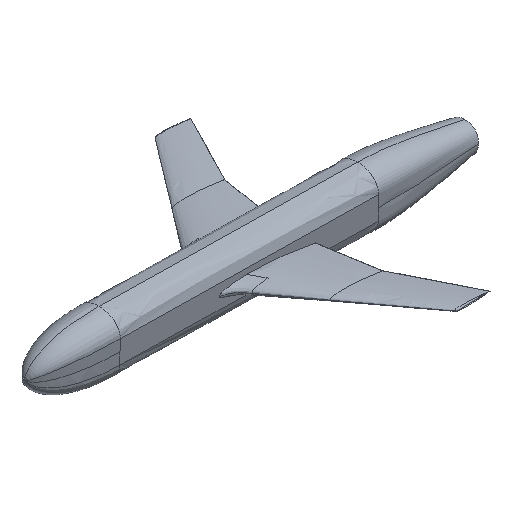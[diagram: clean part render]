
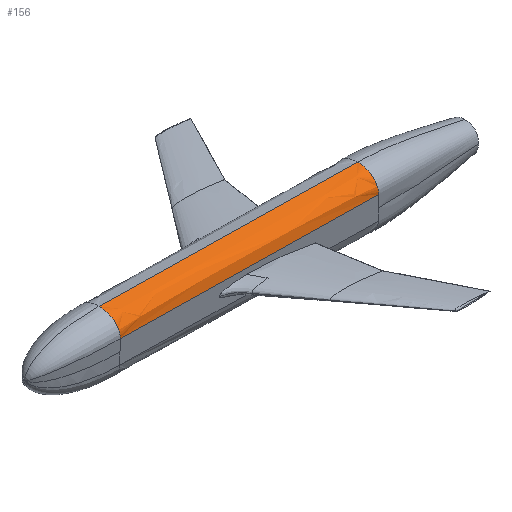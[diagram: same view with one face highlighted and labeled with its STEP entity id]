
A CAD part, isometric view. The second image highlights one B-rep face of the part: STEP entity #156.
In plain terms, the highlighted face is a extrusion surface.
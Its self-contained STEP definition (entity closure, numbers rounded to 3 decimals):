
#103=(
BOUNDED_CURVE()
B_SPLINE_CURVE(3,(#15934,#15935,#15936,#15937),.UNSPECIFIED.,.F.,.F.)
B_SPLINE_CURVE_WITH_KNOTS((4,4),(0.,1.),.UNSPECIFIED.)
CURVE()
GEOMETRIC_REPRESENTATION_ITEM()
RATIONAL_B_SPLINE_CURVE((0.277,0.223,0.223,
0.277))
REPRESENTATION_ITEM('')
);
#104=(
BOUNDED_CURVE()
B_SPLINE_CURVE(3,(#15941,#15942,#15943,#15944),.UNSPECIFIED.,.F.,.F.)
B_SPLINE_CURVE_WITH_KNOTS((4,4),(0.,1.),.UNSPECIFIED.)
CURVE()
GEOMETRIC_REPRESENTATION_ITEM()
RATIONAL_B_SPLINE_CURVE((0.277,0.223,0.223,
0.277))
REPRESENTATION_ITEM('')
);
#117=SURFACE_OF_LINEAR_EXTRUSION('',#104,#125);
#125=VECTOR('',#712,1.);
#156=ADVANCED_FACE('',(#220),#117,.F.);
#220=FACE_OUTER_BOUND('',#261,.T.);
#261=EDGE_LOOP('',(#355,#356,#357,#358));
#355=ORIENTED_EDGE('',*,*,#552,.T.);
#356=ORIENTED_EDGE('',*,*,#553,.F.);
#357=ORIENTED_EDGE('',*,*,#550,.F.);
#358=ORIENTED_EDGE('',*,*,#546,.F.);
#481=VERTEX_POINT('',#13975);
#484=VERTEX_POINT('',#14044);
#486=VERTEX_POINT('',#15013);
#487=VERTEX_POINT('',#15938);
#546=EDGE_CURVE('',#484,#481,#636,.T.);
#550=EDGE_CURVE('',#481,#486,#640,.T.);
#552=EDGE_CURVE('',#484,#487,#103,.T.);
#553=EDGE_CURVE('',#486,#487,#642,.T.);
#636=B_SPLINE_CURVE_WITH_KNOTS('',3,(#14045,#14046,#14047,#14048),
 .UNSPECIFIED.,.F.,.F.,(4,4),(0.,1.),.UNSPECIFIED.);
#640=B_SPLINE_CURVE_WITH_KNOTS('',3,(#14994,#14995,#14996,#14997,#14998,
#14999,#15000,#15001,#15002,#15003,#15004,#15005,#15006,#15007,#15008,#15009,
#15010,#15011,#15012),.UNSPECIFIED.,.F.,.F.,(4,1,1,1,1,1,1,1,1,1,1,1,1,
1,1,1,4),(0.,0.063,0.125,0.188,0.25,0.313,0.375,0.438,0.5,0.563,0.625,
0.688,0.75,0.813,0.875,0.938,1.),.UNSPECIFIED.);
#642=B_SPLINE_CURVE_WITH_KNOTS('',1,(#15939,#15940),.UNSPECIFIED.,.F.,.F.,
(2,2),(0.,1.),.UNSPECIFIED.);
#712=DIRECTION('',(1.,0.,-0.017));
#13975=CARTESIAN_POINT('',(3774.367,-241.426,163.784));
#14044=CARTESIAN_POINT('',(6618.734,-241.426,114.136));
#14045=CARTESIAN_POINT('',(6618.734,-241.426,114.136));
#14046=CARTESIAN_POINT('',(5670.611,-241.426,130.685));
#14047=CARTESIAN_POINT('',(4722.489,-241.426,147.235));
#14048=CARTESIAN_POINT('',(3774.367,-241.426,163.784));
#14994=CARTESIAN_POINT('',(3774.367,-241.426,163.784));
#14995=CARTESIAN_POINT('',(3774.475,-241.424,169.966));
#14996=CARTESIAN_POINT('',(3774.691,-240.662,182.328));
#14997=CARTESIAN_POINT('',(3775.011,-237.252,200.692));
#14998=CARTESIAN_POINT('',(3775.326,-231.609,218.701));
#14999=CARTESIAN_POINT('',(3775.631,-223.786,236.18));
#15000=CARTESIAN_POINT('',(3775.924,-213.86,252.961));
#15001=CARTESIAN_POINT('',(3776.201,-201.925,268.883));
#15002=CARTESIAN_POINT('',(3776.462,-188.097,283.792));
#15003=CARTESIAN_POINT('',(3776.702,-172.509,297.544));
#15004=CARTESIAN_POINT('',(3776.919,-155.31,310.008));
#15005=CARTESIAN_POINT('',(3777.112,-136.668,321.064));
#15006=CARTESIAN_POINT('',(3777.279,-116.76,330.603));
#15007=CARTESIAN_POINT('',(3777.417,-95.779,338.536));
#15008=CARTESIAN_POINT('',(3777.526,-73.928,344.785));
#15009=CARTESIAN_POINT('',(3777.605,-51.415,349.291));
#15010=CARTESIAN_POINT('',(3777.652,-28.459,352.009));
#15011=CARTESIAN_POINT('',(3777.663,-13.006,352.613));
#15012=CARTESIAN_POINT('',(3777.663,-5.28,352.611));
#15013=CARTESIAN_POINT('',(3777.663,-5.28,352.611));
#15934=CARTESIAN_POINT('',(6618.734,-241.426,114.136));
#15935=CARTESIAN_POINT('',(6620.665,-241.398,224.783));
#15936=CARTESIAN_POINT('',(6622.03,-143.583,302.997));
#15937=CARTESIAN_POINT('',(6622.03,-5.28,302.962));
#15938=CARTESIAN_POINT('',(6622.03,-5.28,302.962));
#15939=CARTESIAN_POINT('',(3777.663,-5.28,352.611));
#15940=CARTESIAN_POINT('',(6622.03,-5.28,302.962));
#15941=CARTESIAN_POINT('',(3774.367,-241.426,163.784));
#15942=CARTESIAN_POINT('',(3776.298,-241.398,274.431));
#15943=CARTESIAN_POINT('',(3777.664,-143.583,352.646));
#15944=CARTESIAN_POINT('',(3777.663,-5.28,352.611));
